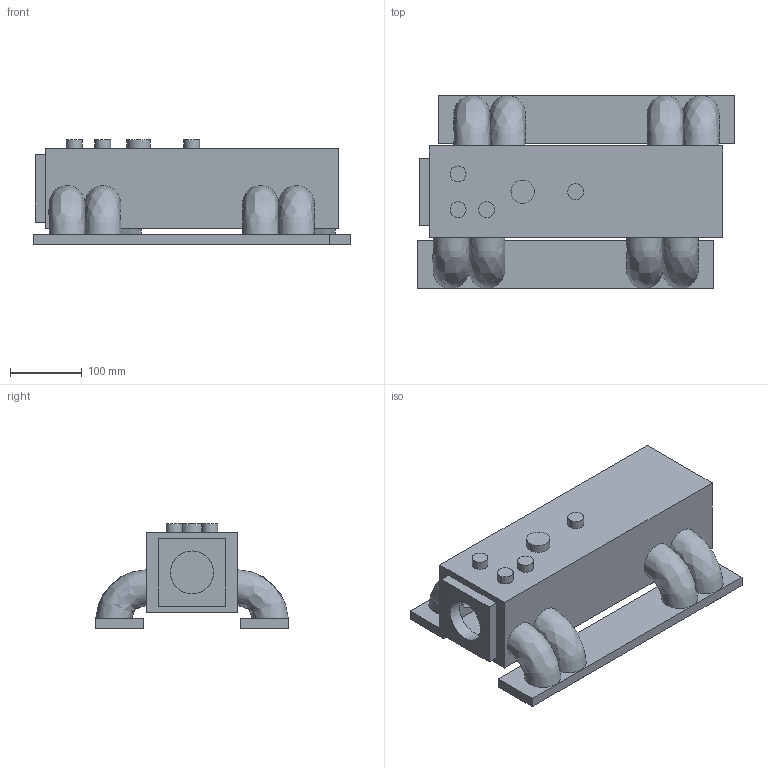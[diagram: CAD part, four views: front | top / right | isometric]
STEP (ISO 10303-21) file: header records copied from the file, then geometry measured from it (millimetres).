
FILE_DESCRIPTION(('Open CASCADE Model'),'2;1');
FILE_NAME('Open CASCADE Shape Model','2026-09-28T12:24:42',('Author'),( 'Open CASCADE'),'Open CASCADE STEP processor 8.0','build123d', 'Unknown');
FILE_SCHEMA(('AUTOMOTIVE_DESIGN { 1 0 10303 214 1 1 1 1 }'));
Length unit declared in the file: millimetre
Products named in the file (1): SOLID
Bounding box: 443 x 270 x 145.91 mm (x, y, z)
Volume: 1851056.1 mm3; surface area: 697391.5 mm2
Topology: 1 solids, 1 shells, 80 faces, 178 edges, 108 vertices
Faces by surface type: plane 46, bspline 20, cylinder 14
Full cylindrical faces by diameter (mm): 22.2 x4, 32.4 x1, 42 x8, 60 x1
Entity records: 21497 total; most frequent: CARTESIAN_POINT 18029, DIRECTION 559, ORIENTED_EDGE 364, PCURVE 356, DEFINITIONAL_REPRESENTATION 356, LINE 282, VECTOR 282, EDGE_CURVE 178
